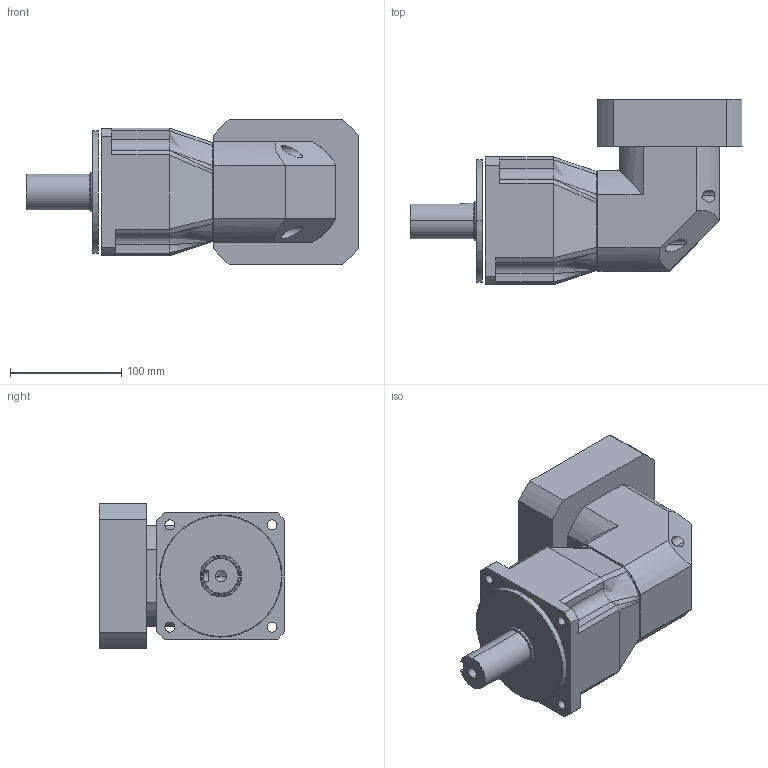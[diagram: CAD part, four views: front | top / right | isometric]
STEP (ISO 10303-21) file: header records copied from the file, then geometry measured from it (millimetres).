
FILE_DESCRIPTION (( 'STEP AP203' ), '1' );
FILE_NAME ('ABR-120-L2-22-110-145-M8-TÐÍ.STEP', '2025-08-15T09:48:21', ( '' ), ( '' ), 'SwSTEP 2.0', 'SolidWorks 2016', '' );
FILE_SCHEMA (( 'CONFIG_CONTROL_DESIGN' ));
Length unit declared in the file: millimetre
Products named in the file (1): ABR-120-L2-22-110-145-M8-T倰
Bounding box: 298.5 x 167 x 130 mm (x, y, z)
Volume: 2441752.3 mm3; surface area: 224522 mm2
Topology: 2 solids, 11 shells, 507 faces, 1389 edges, 872 vertices
Faces by surface type: plane 164, bspline 162, cylinder 119, cone 58, torus 4
Entity records: 21592 total; most frequent: CARTESIAN_POINT 9955, ORIENTED_EDGE 2724, DIRECTION 2050, EDGE_CURVE 1362, VERTEX_POINT 872, AXIS2_PLACEMENT_3D 834, EDGE_LOOP 550, ADVANCED_FACE 507
